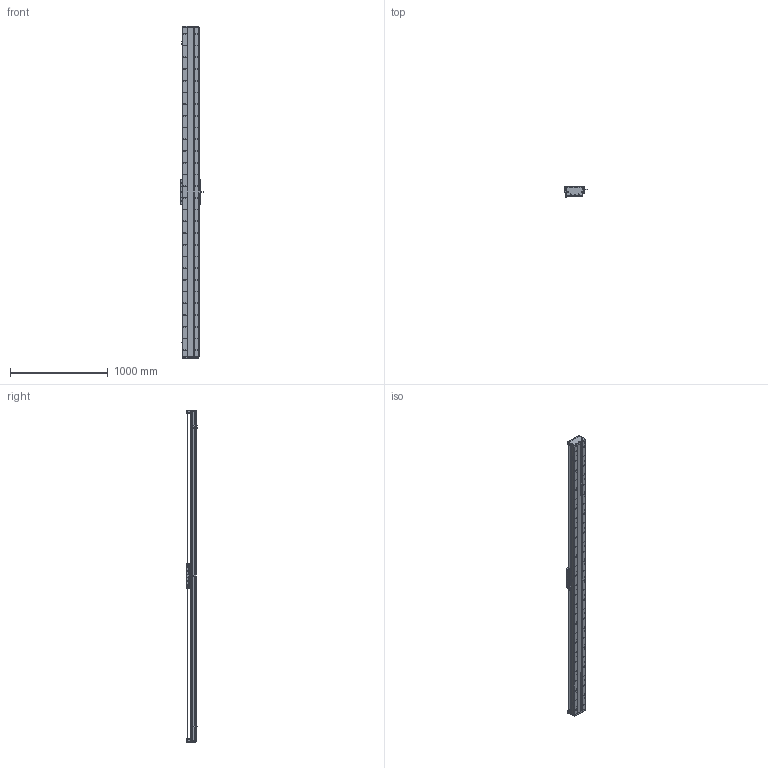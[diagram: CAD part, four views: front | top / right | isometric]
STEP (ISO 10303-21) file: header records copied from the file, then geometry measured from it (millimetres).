
FILE_DESCRIPTION (( 'STEP AP203' ), '1' );
FILE_NAME ('DA-C165-C3-T3060-C010-0.2 直线电机.STEP', '2023-06-13T08:59:42', ( '微软用户' ), ( '微软中国' ), 'SwSTEP 2.0', 'SolidWorks 2019', '' );
FILE_SCHEMA (( 'CONFIG_CONTROL_DESIGN' ));
Length unit declared in the file: millimetre
Products named in the file (18): 葩璃 CKM01-W075-TRL^DA-C165-C3-T-C010-0.2-N 眻盄萇儂; 复件 CU165 底座^IU-CU165-L 底座导轨_L3360; 复件 XD-U-02L 磁栅尺^DA-C165-C3-T-C010-0.2-N 直线电机_T; 葩璃 PM-T45^DA-C165-C3-T-C010-0.2-N 眻盄萇儂; 复件 CU165钢带组件^DA-C165-C3-T-C010-0.2-N 直线电机; 复件 DA165-GD-DG-H-00 端盖^复件 CU165钢带组件_DA-C165-C3-T-C010-0.2-N 直线电机; 复件 DA165-GDYK-00 钢带压块^复件 CU165钢带组件_DA-C165-C3-T-C010-0.2-N 直线电机; 复件 DMA-010-0.2 读数头^DA-C165-C3-T-C010-0.2-N 直线电机; DA-C165-C3-T3060-C010-0.2 眻盄萇儂; 葩璃 DA95-GT-T-00^IU-CU165-L 菁釱絳寢_T; IU-CU165-L 菁釱絳寢; 复件 DA95-HXJ-00 缓冲橡胶^DA-C165-C3-T-C010-0.2-N 直线电机; 复件 六角薄螺母 M3^DA-C165-C3-T-C010-0.2-N 直线电机_GB_FASTENER_NUT_STNAB M3-C; 葩璃 CKM03-W075-C1C2-TP-3.0^DA-C165-C3-T-C010-0.2-N 眻盄萇儂; 复件 DA165-GDLK-00 钢带拉块^复件 CU165钢带组件_DA-C165-C3-T-C010-0.2-N 直线电机; 珨极趙賑雄怢啣C3-wf; 复件 DA165-GD-1860-002-00 钢带盖板^复件 CU165钢带组件_DA-C165-C3-T-C010-0.2-N 直线电机; 复件 DA165-GYP-00 光电感应片^DA-C165-C3-T-C010-0.2-N 直线电机
Assembly tree (35 placements, depth 3):
  DA-C165-C3-T3060-C010-0.2 眻盄萇儂
    IU-CU165-L 菁釱絳寢
      复件 CU165 底座^IU-CU165-L 底座导轨_L3360
      葩璃 DA95-GT-T-00^IU-CU165-L 菁釱絳寢_T  x4
    复件 XD-U-02L 磁栅尺^DA-C165-C3-T-C010-0.2-N 直线电机_T
    葩璃 PM-T45^DA-C165-C3-T-C010-0.2-N 眻盄萇儂  x3
    葩璃 CKM01-W075-TRL^DA-C165-C3-T-C010-0.2-N 眻盄萇儂
    复件 CU165钢带组件^DA-C165-C3-T-C010-0.2-N 直线电机
      复件 DA165-GD-DG-H-00 端盖^复件 CU165钢带组件_DA-C165-C3-T-C010-0.2-N 直线电机  x2
      复件 DA165-GDYK-00 钢带压块^复件 CU165钢带组件_DA-C165-C3-T-C010-0.2-N 直线电机  x2
      复件 DA165-GD-1860-002-00 钢带盖板^复件 CU165钢带组件_DA-C165-C3-T-C010-0.2-N 直线电机
      复件 DA165-GDLK-00 钢带拉块^复件 CU165钢带组件_DA-C165-C3-T-C010-0.2-N 直线电机  x2
    复件 DA95-HXJ-00 缓冲橡胶^DA-C165-C3-T-C010-0.2-N 直线电机  x4
    复件 DA165-GYP-00 光电感应片^DA-C165-C3-T-C010-0.2-N 直线电机
    复件 DMA-010-0.2 读数头^DA-C165-C3-T-C010-0.2-N 直线电机
    葩璃 CKM03-W075-C1C2-TP-3.0^DA-C165-C3-T-C010-0.2-N 眻盄萇儂
    复件 六角薄螺母 M3^DA-C165-C3-T-C010-0.2-N 直线电机_GB_FASTENER_NUT_STNAB M3-C  x8
    珨极趙賑雄怢啣C3-wf
Bounding box: 233 x 111.45 x 3400 mm (x, y, z)
Volume: 18838123.9 mm3; surface area: 5674809.6 mm2
Topology: 72 solids, 122 shells, 4738 faces, 13885 edges, 8828 vertices
Faces by surface type: cylinder 2872, plane 1240, cone 576, torus 46, sphere 4
Entity records: 162545 total; most frequent: CARTESIAN_POINT 45583, ORIENTED_EDGE 24522, DIRECTION 23547, EDGE_CURVE 12261, AXIS2_PLACEMENT_3D 9082, VERTEX_POINT 8016, EDGE_LOOP 5651, LINE 5383
